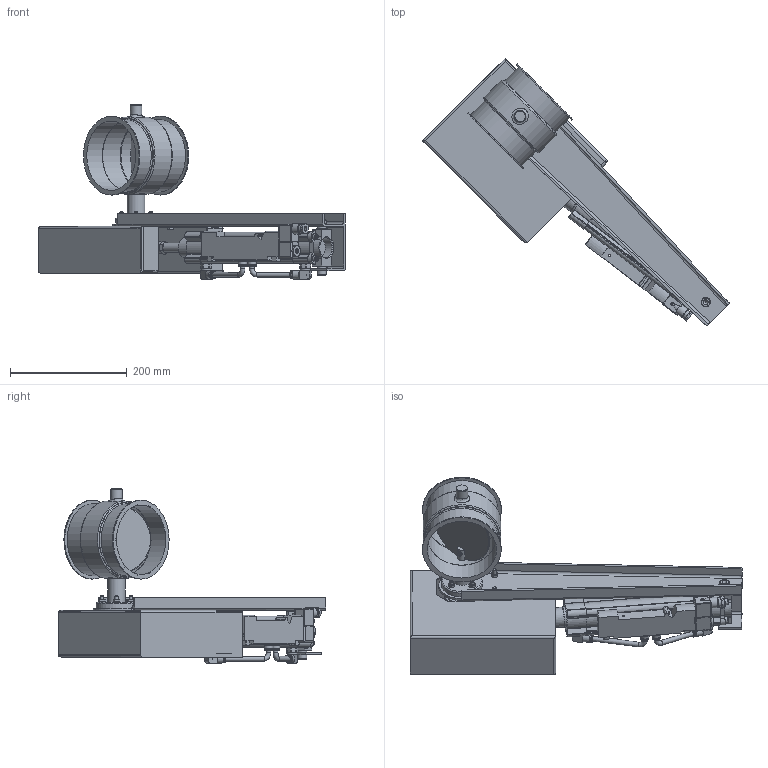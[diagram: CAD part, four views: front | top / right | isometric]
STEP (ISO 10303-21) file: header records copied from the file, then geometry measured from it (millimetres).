
FILE_DESCRIPTION((''),'2;1');
FILE_NAME('U:\Wolfgang\Marcel-3D\fertig\Kapitel 8\1221210.stp','2011-05-03T15:04:53',('TK1'),(''),'Autodesk Inventor 2010','Autodesk Inventor 2010','');
FILE_SCHEMA(('AUTOMOTIVE_DESIGN { 1 0 10303 214 1 1 1 1 }'));
Length unit declared in the file: millimetre
Products named in the file (38): 1221210; BuchseD15 70-50; Bolzen D15; Scheibe120b; F1 Zylindereinheit; 174412_ZNCF_40_6_0; 174412_ZNCF_40_6_01; 174412_ZNCF_40_6_02; 174412_ZNCF_40_6_03; 174412_ZNCF_40_6_04; 174412_ZNCF_40_6_05; 532743_DNCB_40_160_PPV_A_6_0; 532743_DNCB_40_160_PPV_A_6_01; 532743_DNCB_40_160_PPV_A_6_02; 537600_VUVB_S_B42_ZD_Q8_3AC1_6_0; 537600_VUVB_S_B42_ZD_Q8_3AC1_6_01; 537600_VUVB_S_B42_ZD_Q8_3AC1_6_02; 537600_VUVB_S_B42_ZD_Q8_3AC1_6_03; 4527_MSFG_24_42_50_60_6_0; 4527_MSFG_24_42_50_60_6_01; 4527_MSFG_24_42_50_60_6_02; 153414_QSRL_1_4_8_6_0; schlauch; Strebe d15; 0021088 d15; Bolzen; Schutzkasten; Kasten-a; Kasten-b; 13570_CRSG_M12x125_6_0; ISO 4018 M6 x 20; ISO 4032 M6; ISO 4018 M8 x 30; ISO 4027 M6 x 10; DIN 6912 M6 x 16; 1221210-1; DIN 555 - ersetzt durch DIN EN 24034 M6; DIN EN ISO 4018 M6x25
Assembly tree (50 placements, depth 4):
  1221210
    BuchseD15 70-50
    Bolzen D15  x2
    Scheibe120b
    F1 Zylindereinheit
      174412_ZNCF_40_6_0
        174412_ZNCF_40_6_01
        174412_ZNCF_40_6_02
        174412_ZNCF_40_6_03
        174412_ZNCF_40_6_04
        174412_ZNCF_40_6_05
      532743_DNCB_40_160_PPV_A_6_0
        532743_DNCB_40_160_PPV_A_6_01
        532743_DNCB_40_160_PPV_A_6_02
      537600_VUVB_S_B42_ZD_Q8_3AC1_6_0
        537600_VUVB_S_B42_ZD_Q8_3AC1_6_01
        537600_VUVB_S_B42_ZD_Q8_3AC1_6_02
        537600_VUVB_S_B42_ZD_Q8_3AC1_6_03
      4527_MSFG_24_42_50_60_6_0
        4527_MSFG_24_42_50_60_6_01
        4527_MSFG_24_42_50_60_6_02
      153414_QSRL_1_4_8_6_0  x2
      schlauch  x2
      Strebe d15
      0021088 d15
      Bolzen
      Schutzkasten
        Kasten-a
        Kasten-b
      13570_CRSG_M12x125_6_0
      ISO 4018 M6 x 20  x2
      ISO 4032 M6  x2
      ISO 4018 M8 x 30
      ISO 4027 M6 x 10  x2
    DIN 6912 M6 x 16  x2
    1221210-1
    DIN 555 - ersetzt durch DIN EN 24034 M6  x4
    DIN EN ISO 4018 M6x25  x4
Bounding box: 526.09 x 458.91 x 298.27 mm (x, y, z)
Volume: 1506899 mm3; surface area: 799589.5 mm2
Topology: 44 solids, 44 shells, 2638 faces, 6984 edges, 4534 vertices
Faces by surface type: plane 1950, cylinder 407, cone 223, bspline 45, torus 11, sphere 2
Full cylindrical faces by diameter (mm): 1 x3, 2.459 x1, 3 x4, 3.5 x1, 4 x1, 4.5 x1, 4.917 x8, 5 x2, 5.471 x2, 5.5 x1, 6 x37, 6.8 x4, 7.188 x1, 8 x10, 8.05 x1, 9 x2, 9.6 x2, 9.653 x1, 10 x8, 10.15 x2, 11.2 x2, 11.445 x2, 12 x6, 12.5 x1, 13.05 x2, 13.157 x2, 14 x6, 14.4 x4, 14.5 x2, 14.7 x6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
Entity records: 76974 total; most frequent: CARTESIAN_POINT 15241, ORIENTED_EDGE 12304, DIRECTION 11875, EDGE_CURVE 6152, VECTOR 4911, LINE 4911, VERTEX_POINT 4175, AXIS2_PLACEMENT_3D 3482
